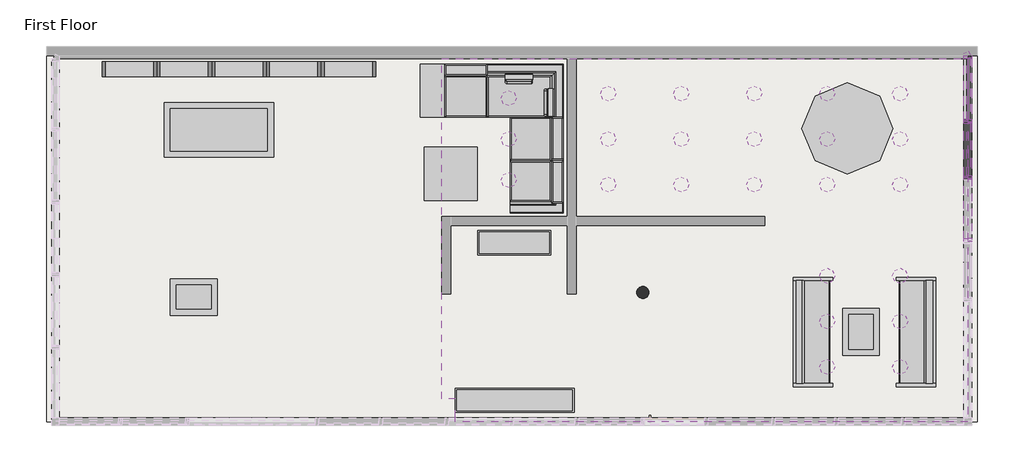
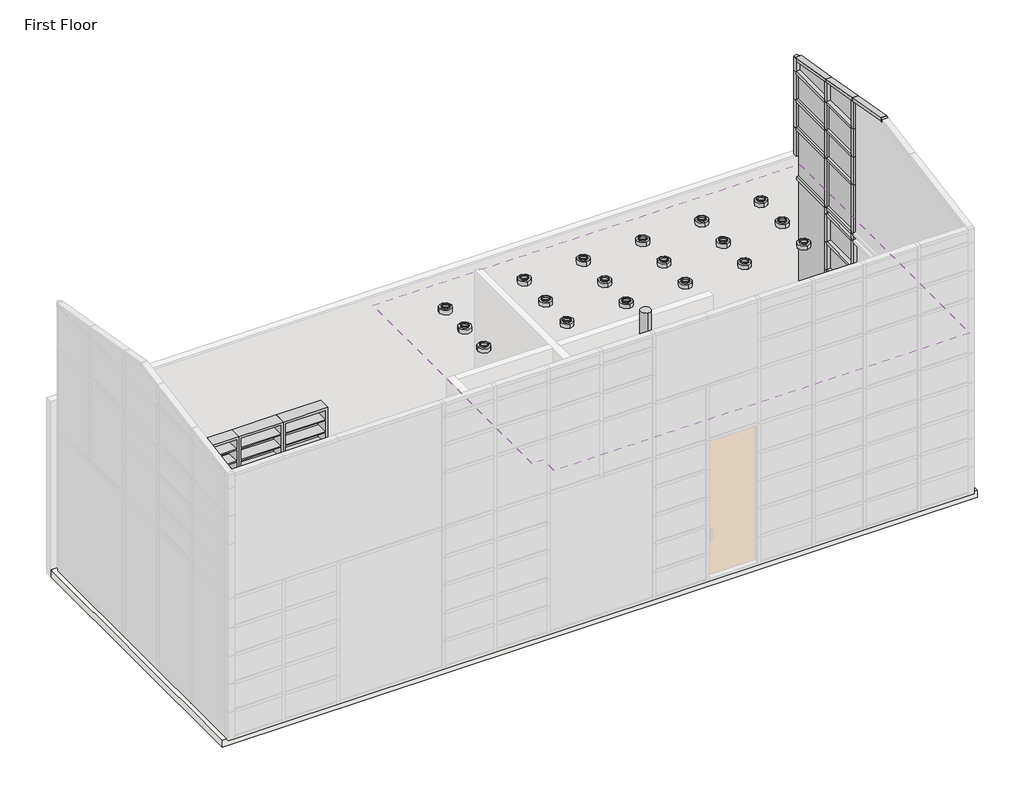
# One storey, part 5 of 5: 51 members, 24 light fixtures, 15 plates, 14 furniture elements, 1 column, 1 covering, 1 slab.
"""IFC4 building model written with IfcOpenShell, lengths in millimetres."""

from ifc_helpers import new_model, si_unit, point, frame, frame_2d, origin, origin_with_axes, place, context, project, spatial, polyline, circle_curve, trimmed, segment, composite_curve, outline, extrude, transform, mapped, element, save
from components import console_table_cdf4f12f, console_table_1e0c4b9e, shelving_bookcase_dark_finish_417d203a, furniture_a4ffab56, furniture_5f90431c, furniture_cd93a443, furniture_bbcc68ce, sectional_sofa_6482_sectional_sofa_6482_260eafee, sectional_sofa_6482_sectional_sofa_6482_b44f1e42, ceiling_light_flat_round_100w_120v_0a96185f, member_c4478095, member_319d761a, member_95fb7d25, member_e083785e, rectangular_mullion_rectangular_mullion_1_6e77e263, rectangular_mullion_rectangular_mullion_1_387e4cd3, rectangular_mullion_rectangular_mullion_1_67903e99, rectangular_mullion_rectangular_mullion_1_2650d14b, rectangular_mullion_rectangular_mullion_1_e82f553c, rectangular_mullion_rectangular_mullion_1_3d9b8911, rectangular_mullion_rectangular_mullion_1_266e9da3, rectangular_mullion_rectangular_mullion_1_ba4685a1, rectangular_mullion_rectangular_mullion_1_8b184945, rectangular_mullion_rectangular_mullion_1_1208470f, rectangular_mullion_rectangular_mullion_1_ac3be7ce, rectangular_mullion_rectangular_mullion_1_4a96a3d2, rectangular_mullion_rectangular_mullion_1_6a99a7d8, rectangular_mullion_rectangular_mullion_1_47e5d6da, rectangular_mullion_rectangular_mullion_1_9e40f087, system_panel_glazed_19ddb9a8, system_panel_glazed_8ef25f1c, system_panel_glazed_1be0de3c, system_panel_glazed_8d9964ea, system_panel_solid_grey_943a4061, system_panel_solid_grey_8fb18e3d, system_panel_solid_white_b9359cd8, system_panel_solid_white_162dd118, system_panel_solid_white_42016752, system_panel_wood_dark_18ae1fc2

model = new_model("IFC4")

# Units and contexts
model_context = context("Model", 3, world=origin())
ifc_project = project(units=[si_unit("LENGTHUNIT", "METRE", prefix="MILLI")], contexts=[model_context])

# Site, building, storey
site = spatial("IfcSite", under=ifc_project)
building = spatial("IfcBuilding", under=site)
storey = spatial("IfcBuildingStorey", under=building, Name="First Floor", Elevation=0.0)

# Column
placement = place(None, origin())
element("IfcColumn", 1, ObjectType="Round Column : 08\" Diameter", at=placement, inside=storey, context=model_context, shape_type="SweptSolid", body=[
    extrude(outline(composite_curve([segment(trimmed(circle_curve(frame_2d((-866.2217693, 8233.9400612)), 101.6), [point((-866.2217693, 8132.3400612))], [point((-866.2217693, 8335.5400612))], False, "CARTESIAN"), True, "CONTINUOUS"), segment(trimmed(circle_curve(frame_2d((-866.2217693, 8233.9400612)), 101.6), [point((-866.2217693, 8335.5400612))], [point((-764.6217693, 8233.9400612))], False, "CARTESIAN"), True, "CONTINUOUS"), segment(trimmed(circle_curve(frame_2d((-866.2217693, 8233.9400612)), 101.6), [point((-764.6217693, 8233.9400612))], [point((-866.2217693, 8132.3400612))], False, "CARTESIAN"), True, "CONTINUOUS")], self_intersect=False)), origin_with_axes(), (0.0, 0.0, 1.0), 4572.0),
])

# Covering
element("IfcCovering", 2, ObjectType="Ceiling 1", at=placement, inside=storey, context=model_context, shape_type="SweptSolid", body=[
    extrude(outline(polyline([(-4226.2789122, 6455.9400612), (-4226.2789122, 12145.5400612), (4563.0282307, 12145.5400612), (4563.0282307, 6074.9400612), (-3997.6789122, 6074.9400612), (-3997.6789122, 6455.9400612), (-4226.2789122, 6455.9400612)]), holes=[composite_curve([segment(trimmed(circle_curve(frame_2d((-861.1009964, 8233.9400612)), 1117.6), [point((-1978.7009964, 8233.9400612))], [point((256.4990036, 8233.9400612))], True, "CARTESIAN"), True, "CONTINUOUS"), segment(trimmed(circle_curve(frame_2d((-861.1009964, 8233.9400612)), 1117.6), [point((256.4990036, 8233.9400612))], [point((-1978.7009964, 8233.9400612))], True, "CARTESIAN"), True, "CONTINUOUS")], self_intersect=False)]), frame((0.0, 0.0, 3479.8), z_axis=(0.0, 0.0, 1.0), x_axis=(1.0, 0.0, 0.0)), (0.0, 0.0, 1.0), 25.4),
])

# Furniture
console_table_shape = console_table_cdf4f12f(model_context)
element("IfcFurniture", 3, ObjectType="Console Table : 78\" L x 16\" W x 32\" H", at=placement, inside=storey, context=model_context, shape_type="MappedRepresentation", body=[
    mapped(console_table_shape, transform((-3007.0789122, 6430.5400612, 0.0), x_axis=(-1.0, 0.0, 0.0), y_axis=(0.0, -1.0, 0.0), z_axis=(0.0, 0.0, 1.0))),
])
console_table_2_shape = console_table_1e0c4b9e(model_context)
element("IfcFurniture", 4, ObjectType="Console Table : 48\" L x 16\" W x 32\" H", at=placement, inside=storey, context=model_context, shape_type="MappedRepresentation", body=[
    mapped(console_table_2_shape, transform((-3014.3401664, 9066.5683939, 0.0), x_axis=(1.0, 0.0, 0.0), y_axis=(0.0, 1.0, 0.0), z_axis=(0.0, 0.0, 1.0))),
])
shelving_bookcase_dark_finish_shape = shelving_bookcase_dark_finish_417d203a(model_context)
element("IfcFurniture", 5, ObjectType="Shelving : Bookcase - Dark Finish", at=placement, inside=storey, context=model_context, shape_type="MappedRepresentation", body=[
    mapped(shelving_bookcase_dark_finish_shape, transform((-5787.0717211, 12272.5400612, 0.0), x_axis=(1.0, 0.0, 0.0), y_axis=(0.0, 1.0, 0.0), z_axis=(0.0, 0.0, 1.0))),
])
element("IfcFurniture", 6, ObjectType="Shelving : Bookcase - Dark Finish", at=placement, inside=storey, context=model_context, shape_type="MappedRepresentation", body=[
    mapped(shelving_bookcase_dark_finish_shape, transform((-6701.4717211, 12272.5400612, 0.0), x_axis=(1.0, 0.0, 0.0), y_axis=(0.0, 1.0, 0.0), z_axis=(0.0, 0.0, 1.0))),
])
element("IfcFurniture", 7, ObjectType="Shelving : Bookcase - Dark Finish", at=placement, inside=storey, context=model_context, shape_type="MappedRepresentation", body=[
    mapped(shelving_bookcase_dark_finish_shape, transform((-7615.8717211, 12272.5400612, 0.0), x_axis=(1.0, 0.0, 0.0), y_axis=(0.0, 1.0, 0.0), z_axis=(0.0, 0.0, 1.0))),
])
element("IfcFurniture", 8, ObjectType="Shelving : Bookcase - Dark Finish", at=placement, inside=storey, context=model_context, shape_type="MappedRepresentation", body=[
    mapped(shelving_bookcase_dark_finish_shape, transform((-8530.2717211, 12272.5400612, 0.0), x_axis=(1.0, 0.0, 0.0), y_axis=(0.0, 1.0, 0.0), z_axis=(0.0, 0.0, 1.0))),
])
element("IfcFurniture", 9, ObjectType="Shelving : Bookcase - Dark Finish", at=placement, inside=storey, context=model_context, shape_type="MappedRepresentation", body=[
    mapped(shelving_bookcase_dark_finish_shape, transform((-9444.6717211, 12272.5400612, 0.0), x_axis=(1.0, 0.0, 0.0), y_axis=(0.0, 1.0, 0.0), z_axis=(0.0, 0.0, 1.0))),
])
furniture_shape = furniture_a4ffab56(model_context)
element("IfcFurniture", 10, ObjectType="Sofa : 72\"", at=placement, inside=storey, context=model_context, shape_type="MappedRepresentation", body=[
    mapped(furniture_shape, transform((3548.1352979, 7645.0259618, 0.0), x_axis=(0.0, -1.0, 0.0), y_axis=(1.0, 0.0, 0.0), z_axis=(0.0, 0.0, 1.0))),
])
element("IfcFurniture", 11, ObjectType="Sofa : 72\"", at=placement, inside=storey, context=model_context, shape_type="MappedRepresentation", body=[
    mapped(furniture_shape, transform((2124.9034302, 7504.2849782, 0.0), x_axis=(0.0, 1.0, 0.0), y_axis=(-1.0, 0.0, 0.0), z_axis=(0.0, 0.0, 1.0))),
])
furniture_2_shape = furniture_5f90431c(model_context)
element("IfcFurniture", 12, ObjectType="Table-Coffee : 31\" x 28\" x 24\"", at=placement, inside=storey, context=model_context, shape_type="MappedRepresentation", body=[
    mapped(furniture_2_shape, transform((-8466.8288244, 8177.1212367, 0.0), x_axis=(0.0, -1.0, 0.0), y_axis=(1.0, 0.0, 0.0), z_axis=(0.0, 0.0, 1.0))),
])
element("IfcFurniture", 13, ObjectType="Table-Coffee : 31\" x 28\" x 24\"", at=placement, inside=storey, context=model_context, shape_type="MappedRepresentation", body=[
    mapped(furniture_2_shape, transform((2761.6236296, 7479.4443922, 0.0), x_axis=(1.0, 0.0, 0.0), y_axis=(0.0, 1.0, 0.0), z_axis=(0.0, 0.0, 1.0))),
])
furniture_3_shape = furniture_cd93a443(model_context)
element("IfcFurniture", 14, ObjectType="Table-Coffee : 36\" x 72\" x 18\"", at=placement, inside=storey, context=model_context, shape_type="MappedRepresentation", body=[
    mapped(furniture_3_shape, transform((-7969.4763222, 10857.6443922, 0.0), x_axis=(1.0, 0.0, 0.0), y_axis=(0.0, 1.0, 0.0), z_axis=(0.0, 0.0, 1.0))),
])
furniture_4_shape = furniture_bbcc68ce(model_context)
element("IfcFurniture", 15, ObjectType="Table-Dining Round w Chairs : 60\" Diameter", at=placement, inside=storey, context=model_context, shape_type="MappedRepresentation", body=[
    mapped(furniture_4_shape, transform((2736.1680848, 11081.9374372, 0.0), x_axis=(0.0, -1.0, 0.0), y_axis=(1.0, 0.0, 0.0), z_axis=(0.0, 0.0, 1.0))),
])
sectional_sofa_6482_sectional_sofa_6482_shape = sectional_sofa_6482_sectional_sofa_6482_260eafee(model_context)
sectional_sofa_6482_sectional_sofa_6482_2_shape = sectional_sofa_6482_sectional_sofa_6482_b44f1e42(model_context)
element("IfcFurniture", 16, ObjectType="sectional_sofa_6482 : sectional_sofa_6482", at=placement, inside=storey, context=model_context, shape_type="MappedRepresentation", body=[
    mapped(sectional_sofa_6482_sectional_sofa_6482_shape, transform((-3464.4118337, 10761.2400612, 0.0), x_axis=(1.0, 0.0, 0.0), y_axis=(0.0, 1.0, 0.0), z_axis=(0.0, 0.0, 1.0))),
    mapped(sectional_sofa_6482_sectional_sofa_6482_2_shape, transform((-3464.4118337, 10761.2400612, 0.0), x_axis=(1.0, 0.0, 0.0), y_axis=(0.0, 1.0, 0.0), z_axis=(0.0, 0.0, 1.0))),
])

# Light fixtures
ceiling_light_flat_round_100w_120v_shape = ceiling_light_flat_round_100w_120v_0a96185f(model_context)
element("IfcLightFixture", 17, ObjectType="Ceiling Light - Flat Round : 100W - 120V", at=placement, inside=storey, context=model_context, shape_type="MappedRepresentation", body=[
    mapped(ceiling_light_flat_round_100w_120v_shape, transform((-1445.1118337, 11561.3400612, 1041.4), x_axis=(0.0, -1.0, 0.0), y_axis=(1.0, 0.0, 0.0), z_axis=(0.0, 0.0, 1.0))),
])
element("IfcLightFixture", 18, ObjectType="Ceiling Light - Flat Round : 100W - 120V", at=placement, inside=storey, context=model_context, shape_type="MappedRepresentation", body=[
    mapped(ceiling_light_flat_round_100w_120v_shape, transform((-1445.1118337, 10799.3400612, 1041.4), x_axis=(0.0, -1.0, 0.0), y_axis=(1.0, 0.0, 0.0), z_axis=(0.0, 0.0, 1.0))),
])
element("IfcLightFixture", 19, ObjectType="Ceiling Light - Flat Round : 100W - 120V", at=placement, inside=storey, context=model_context, shape_type="MappedRepresentation", body=[
    mapped(ceiling_light_flat_round_100w_120v_shape, transform((-1445.1118337, 10037.3400612, 1041.4), x_axis=(0.0, -1.0, 0.0), y_axis=(1.0, 0.0, 0.0), z_axis=(0.0, 0.0, 1.0))),
])
element("IfcLightFixture", 20, ObjectType="Ceiling Light - Flat Round : 100W - 120V", at=placement, inside=storey, context=model_context, shape_type="MappedRepresentation", body=[
    mapped(ceiling_light_flat_round_100w_120v_shape, transform((-225.9118337, 11561.3400612, 1041.4), x_axis=(0.0, -1.0, 0.0), y_axis=(1.0, 0.0, 0.0), z_axis=(0.0, 0.0, 1.0))),
])
element("IfcLightFixture", 21, ObjectType="Ceiling Light - Flat Round : 100W - 120V", at=placement, inside=storey, context=model_context, shape_type="MappedRepresentation", body=[
    mapped(ceiling_light_flat_round_100w_120v_shape, transform((-225.9118337, 10799.3400612, 1041.4), x_axis=(0.0, -1.0, 0.0), y_axis=(1.0, 0.0, 0.0), z_axis=(0.0, 0.0, 1.0))),
])
element("IfcLightFixture", 22, ObjectType="Ceiling Light - Flat Round : 100W - 120V", at=placement, inside=storey, context=model_context, shape_type="MappedRepresentation", body=[
    mapped(ceiling_light_flat_round_100w_120v_shape, transform((-225.9118337, 10037.3400612, 1041.4), x_axis=(0.0, -1.0, 0.0), y_axis=(1.0, 0.0, 0.0), z_axis=(0.0, 0.0, 1.0))),
])
element("IfcLightFixture", 23, ObjectType="Ceiling Light - Flat Round : 100W - 120V", at=placement, inside=storey, context=model_context, shape_type="MappedRepresentation", body=[
    mapped(ceiling_light_flat_round_100w_120v_shape, transform((993.2881663, 11561.3400612, 1041.4), x_axis=(0.0, -1.0, 0.0), y_axis=(1.0, 0.0, 0.0), z_axis=(0.0, 0.0, 1.0))),
])
element("IfcLightFixture", 24, ObjectType="Ceiling Light - Flat Round : 100W - 120V", at=placement, inside=storey, context=model_context, shape_type="MappedRepresentation", body=[
    mapped(ceiling_light_flat_round_100w_120v_shape, transform((993.2881663, 10799.3400612, 1041.4), x_axis=(0.0, -1.0, 0.0), y_axis=(1.0, 0.0, 0.0), z_axis=(0.0, 0.0, 1.0))),
])
element("IfcLightFixture", 25, ObjectType="Ceiling Light - Flat Round : 100W - 120V", at=placement, inside=storey, context=model_context, shape_type="MappedRepresentation", body=[
    mapped(ceiling_light_flat_round_100w_120v_shape, transform((993.2881663, 10037.3400612, 1041.4), x_axis=(0.0, -1.0, 0.0), y_axis=(1.0, 0.0, 0.0), z_axis=(0.0, 0.0, 1.0))),
])
element("IfcLightFixture", 26, ObjectType="Ceiling Light - Flat Round : 100W - 120V", at=placement, inside=storey, context=model_context, shape_type="MappedRepresentation", body=[
    mapped(ceiling_light_flat_round_100w_120v_shape, transform((2212.4881663, 11561.3400612, 1041.4), x_axis=(0.0, -1.0, 0.0), y_axis=(1.0, 0.0, 0.0), z_axis=(0.0, 0.0, 1.0))),
])
element("IfcLightFixture", 27, ObjectType="Ceiling Light - Flat Round : 100W - 120V", at=placement, inside=storey, context=model_context, shape_type="MappedRepresentation", body=[
    mapped(ceiling_light_flat_round_100w_120v_shape, transform((2212.4881663, 10799.3400612, 1041.4), x_axis=(0.0, -1.0, 0.0), y_axis=(1.0, 0.0, 0.0), z_axis=(0.0, 0.0, 1.0))),
])
element("IfcLightFixture", 28, ObjectType="Ceiling Light - Flat Round : 100W - 120V", at=placement, inside=storey, context=model_context, shape_type="MappedRepresentation", body=[
    mapped(ceiling_light_flat_round_100w_120v_shape, transform((2212.4881663, 10037.3400612, 1041.4), x_axis=(0.0, -1.0, 0.0), y_axis=(1.0, 0.0, 0.0), z_axis=(0.0, 0.0, 1.0))),
])
element("IfcLightFixture", 29, ObjectType="Ceiling Light - Flat Round : 100W - 120V", at=placement, inside=storey, context=model_context, shape_type="MappedRepresentation", body=[
    mapped(ceiling_light_flat_round_100w_120v_shape, transform((3431.6881663, 11561.3400612, 1041.4), x_axis=(0.0, -1.0, 0.0), y_axis=(1.0, 0.0, 0.0), z_axis=(0.0, 0.0, 1.0))),
])
element("IfcLightFixture", 30, ObjectType="Ceiling Light - Flat Round : 100W - 120V", at=placement, inside=storey, context=model_context, shape_type="MappedRepresentation", body=[
    mapped(ceiling_light_flat_round_100w_120v_shape, transform((3431.6881663, 10799.3400612, 1041.4), x_axis=(0.0, -1.0, 0.0), y_axis=(1.0, 0.0, 0.0), z_axis=(0.0, 0.0, 1.0))),
])
element("IfcLightFixture", 31, ObjectType="Ceiling Light - Flat Round : 100W - 120V", at=placement, inside=storey, context=model_context, shape_type="MappedRepresentation", body=[
    mapped(ceiling_light_flat_round_100w_120v_shape, transform((3431.6881663, 10037.3400612, 1041.4), x_axis=(0.0, -1.0, 0.0), y_axis=(1.0, 0.0, 0.0), z_axis=(0.0, 0.0, 1.0))),
])
element("IfcLightFixture", 32, ObjectType="Ceiling Light - Flat Round : 100W - 120V", at=placement, inside=storey, context=model_context, shape_type="MappedRepresentation", body=[
    mapped(ceiling_light_flat_round_100w_120v_shape, transform((2212.4881663, 8513.3400612, 1041.4), x_axis=(0.0, -1.0, 0.0), y_axis=(1.0, 0.0, 0.0), z_axis=(0.0, 0.0, 1.0))),
])
element("IfcLightFixture", 33, ObjectType="Ceiling Light - Flat Round : 100W - 120V", at=placement, inside=storey, context=model_context, shape_type="MappedRepresentation", body=[
    mapped(ceiling_light_flat_round_100w_120v_shape, transform((2212.4881663, 7751.3400612, 1041.4), x_axis=(0.0, -1.0, 0.0), y_axis=(1.0, 0.0, 0.0), z_axis=(0.0, 0.0, 1.0))),
])
element("IfcLightFixture", 34, ObjectType="Ceiling Light - Flat Round : 100W - 120V", at=placement, inside=storey, context=model_context, shape_type="MappedRepresentation", body=[
    mapped(ceiling_light_flat_round_100w_120v_shape, transform((2212.4881663, 6989.3400612, 1041.4), x_axis=(0.0, -1.0, 0.0), y_axis=(1.0, 0.0, 0.0), z_axis=(0.0, 0.0, 1.0))),
])
element("IfcLightFixture", 35, ObjectType="Ceiling Light - Flat Round : 100W - 120V", at=placement, inside=storey, context=model_context, shape_type="MappedRepresentation", body=[
    mapped(ceiling_light_flat_round_100w_120v_shape, transform((3431.6881663, 8513.3400612, 1041.4), x_axis=(0.0, -1.0, 0.0), y_axis=(1.0, 0.0, 0.0), z_axis=(0.0, 0.0, 1.0))),
])
element("IfcLightFixture", 36, ObjectType="Ceiling Light - Flat Round : 100W - 120V", at=placement, inside=storey, context=model_context, shape_type="MappedRepresentation", body=[
    mapped(ceiling_light_flat_round_100w_120v_shape, transform((3431.6881663, 7751.3400612, 1041.4), x_axis=(0.0, -1.0, 0.0), y_axis=(1.0, 0.0, 0.0), z_axis=(0.0, 0.0, 1.0))),
])
element("IfcLightFixture", 37, ObjectType="Ceiling Light - Flat Round : 100W - 120V", at=placement, inside=storey, context=model_context, shape_type="MappedRepresentation", body=[
    mapped(ceiling_light_flat_round_100w_120v_shape, transform((3431.6881663, 6989.3400612, 1041.4), x_axis=(0.0, -1.0, 0.0), y_axis=(1.0, 0.0, 0.0), z_axis=(0.0, 0.0, 1.0))),
])
element("IfcLightFixture", 38, ObjectType="Ceiling Light - Flat Round : 60W - 120V", at=placement, inside=storey, context=model_context, shape_type="MappedRepresentation", body=[
    mapped(ceiling_light_flat_round_100w_120v_shape, transform((-3108.6789122, 10799.3400612, 1041.4), x_axis=(1.0, 0.0, 0.0), y_axis=(0.0, 1.0, 0.0), z_axis=(0.0, 0.0, 1.0))),
])
element("IfcLightFixture", 39, ObjectType="Ceiling Light - Flat Round : 60W - 120V", at=placement, inside=storey, context=model_context, shape_type="MappedRepresentation", body=[
    mapped(ceiling_light_flat_round_100w_120v_shape, transform((-3108.6789122, 11485.1400612, 1041.4), x_axis=(1.0, 0.0, 0.0), y_axis=(0.0, 1.0, 0.0), z_axis=(0.0, 0.0, 1.0))),
])
element("IfcLightFixture", 40, ObjectType="Ceiling Light - Flat Round : 60W - 120V", at=placement, inside=storey, context=model_context, shape_type="MappedRepresentation", body=[
    mapped(ceiling_light_flat_round_100w_120v_shape, transform((-3108.6789122, 10113.5400612, 1041.4), x_axis=(1.0, 0.0, 0.0), y_axis=(0.0, 1.0, 0.0), z_axis=(0.0, 0.0, 1.0))),
])

# Members
member_shape = member_c4478095(model_context)
element("IfcMember", 41, ObjectType="Quad Corner Mullion : 3\" x 1 1/2\" Quad Mullion", at=placement, inside=storey, context=model_context, shape_type="MappedRepresentation", body=[
    mapped(member_shape, transform((4563.0282307, 12196.3400612, 5486.4), x_axis=(0.0, 1.0, 0.0), y_axis=(-1.0, 0.0, 0.0), z_axis=(0.0, 0.0, 1.0))),
])
element("IfcMember", 42, ObjectType="Quad Corner Mullion : 3\" x 1 1/2\" Quad Mullion", at=placement, inside=storey, context=model_context, shape_type="MappedRepresentation", body=[
    mapped(member_shape, transform((4563.0282307, 12196.3400612, 4876.8), x_axis=(0.0, 1.0, 0.0), y_axis=(-1.0, 0.0, 0.0), z_axis=(0.0, 0.0, 1.0))),
])
element("IfcMember", 43, ObjectType="Quad Corner Mullion : 3\" x 1 1/2\" Quad Mullion", at=placement, inside=storey, context=model_context, shape_type="MappedRepresentation", body=[
    mapped(member_shape, transform((4563.0282307, 12196.3400612, 609.6), x_axis=(0.0, 1.0, 0.0), y_axis=(-1.0, 0.0, 0.0), z_axis=(0.0, 0.0, 1.0))),
])
element("IfcMember", 44, ObjectType="Quad Corner Mullion : 3\" x 1 1/2\" Quad Mullion", at=placement, inside=storey, context=model_context, shape_type="MappedRepresentation", body=[
    mapped(member_shape, transform((4563.0282307, 12196.3400612, 1828.8), x_axis=(0.0, 1.0, 0.0), y_axis=(-1.0, 0.0, 0.0), z_axis=(0.0, 0.0, 1.0))),
])
element("IfcMember", 45, ObjectType="Quad Corner Mullion : 3\" x 1 1/2\" Quad Mullion", at=placement, inside=storey, context=model_context, shape_type="MappedRepresentation", body=[
    mapped(member_shape, transform((4563.0282307, 12196.3400612, 3048.0), x_axis=(0.0, 1.0, 0.0), y_axis=(-1.0, 0.0, 0.0), z_axis=(0.0, 0.0, 1.0))),
])
element("IfcMember", 46, ObjectType="Quad Corner Mullion : 3\" x 1 1/2\" Quad Mullion", at=placement, inside=storey, context=model_context, shape_type="MappedRepresentation", body=[
    mapped(member_shape, transform((4563.0282307, 12196.3400612, 1219.2), x_axis=(0.0, 1.0, 0.0), y_axis=(-1.0, 0.0, 0.0), z_axis=(0.0, 0.0, 1.0))),
])
element("IfcMember", 47, ObjectType="Quad Corner Mullion : 3\" x 1 1/2\" Quad Mullion", at=placement, inside=storey, context=model_context, shape_type="MappedRepresentation", body=[
    mapped(member_shape, transform((4563.0282307, 12196.3400612, 2438.4), x_axis=(0.0, 1.0, 0.0), y_axis=(-1.0, 0.0, 0.0), z_axis=(0.0, 0.0, 1.0))),
])
member_2_shape = member_319d761a(model_context)
element("IfcMember", 48, ObjectType="Quad Corner Mullion : 3\" x 1 1/2\" Quad Mullion", at=placement, inside=storey, context=model_context, shape_type="MappedRepresentation", body=[
    mapped(member_2_shape, transform((4563.0282307, 12196.3400612, 4267.2), x_axis=(0.0, 1.0, 0.0), y_axis=(-1.0, 0.0, 0.0), z_axis=(0.0, 0.0, 1.0))),
])
member_3_shape = member_95fb7d25(model_context)
element("IfcMember", 49, ObjectType="Quad Corner Mullion : 3\" x 1 1/2\" Quad Mullion", at=placement, inside=storey, context=model_context, shape_type="MappedRepresentation", body=[
    mapped(member_3_shape, transform((4563.0282307, 12196.3400612, 5791.2), x_axis=(0.0, 1.0, 0.0), y_axis=(-1.0, 0.0, 0.0), z_axis=(0.0, 0.0, 1.0))),
])
member_4_shape = member_e083785e(model_context)
element("IfcMember", 50, ObjectType="Quad Corner Mullion : 3\" x 1 1/2\" Quad Mullion", at=placement, inside=storey, context=model_context, shape_type="MappedRepresentation", body=[
    mapped(member_4_shape, transform((4563.0282307, 12196.3400612, 3197.1919949), x_axis=(0.0, 1.0, 0.0), y_axis=(-1.0, 0.0, 0.0), z_axis=(0.0, 0.0, 1.0))),
])
rectangular_mullion_rectangular_mullion_1_shape = rectangular_mullion_rectangular_mullion_1_6e77e263(model_context)
element("IfcMember", 51, ObjectType="Rectangular Mullion : Rectangular Mullion 1", at=placement, inside=storey, context=model_context, shape_type="MappedRepresentation", body=[
    mapped(rectangular_mullion_rectangular_mullion_1_shape, transform((4563.0282307, 10152.8657674, 0.0), x_axis=(0.0, -1.0, 0.0), y_axis=(-1.0, 0.0, 0.0), z_axis=(0.0, 0.0, -1.0))),
])
element("IfcMember", 52, ObjectType="Rectangular Mullion : Rectangular Mullion 1", at=placement, inside=storey, context=model_context, shape_type="MappedRepresentation", body=[
    mapped(rectangular_mullion_rectangular_mullion_1_shape, transform((4563.0282307, 11096.7317278, 0.0), x_axis=(0.0, -1.0, 0.0), y_axis=(-1.0, 0.0, 0.0), z_axis=(0.0, 0.0, -1.0))),
])
element("IfcMember", 53, ObjectType="Rectangular Mullion : Rectangular Mullion 1", at=placement, inside=storey, context=model_context, shape_type="MappedRepresentation", body=[
    mapped(rectangular_mullion_rectangular_mullion_1_shape, transform((4563.0282307, 11096.7317278, 4876.8), x_axis=(0.0, -1.0, 0.0), y_axis=(-1.0, 0.0, 0.0), z_axis=(0.0, 0.0, -1.0))),
])
element("IfcMember", 54, ObjectType="Rectangular Mullion : Rectangular Mullion 1", at=placement, inside=storey, context=model_context, shape_type="MappedRepresentation", body=[
    mapped(rectangular_mullion_rectangular_mullion_1_shape, transform((4563.0282307, 10152.8657674, 4876.8), x_axis=(0.0, -1.0, 0.0), y_axis=(-1.0, 0.0, 0.0), z_axis=(0.0, 0.0, -1.0))),
])
element("IfcMember", 55, ObjectType="Rectangular Mullion : Rectangular Mullion 1", at=placement, inside=storey, context=model_context, shape_type="MappedRepresentation", body=[
    mapped(rectangular_mullion_rectangular_mullion_1_shape, transform((4563.0282307, 11096.7317278, 4267.2), x_axis=(0.0, -1.0, 0.0), y_axis=(-1.0, 0.0, 0.0), z_axis=(0.0, 0.0, -1.0))),
])
element("IfcMember", 56, ObjectType="Rectangular Mullion : Rectangular Mullion 1", at=placement, inside=storey, context=model_context, shape_type="MappedRepresentation", body=[
    mapped(rectangular_mullion_rectangular_mullion_1_shape, transform((4563.0282307, 10152.8657674, 4267.2), x_axis=(0.0, -1.0, 0.0), y_axis=(-1.0, 0.0, 0.0), z_axis=(0.0, 0.0, -1.0))),
])
element("IfcMember", 57, ObjectType="Rectangular Mullion : Rectangular Mullion 1", at=placement, inside=storey, context=model_context, shape_type="MappedRepresentation", body=[
    mapped(rectangular_mullion_rectangular_mullion_1_shape, transform((4563.0282307, 11096.7317278, 2438.4), x_axis=(0.0, -1.0, 0.0), y_axis=(-1.0, 0.0, 0.0), z_axis=(0.0, 0.0, -1.0))),
])
element("IfcMember", 58, ObjectType="Rectangular Mullion : Rectangular Mullion 1", at=placement, inside=storey, context=model_context, shape_type="MappedRepresentation", body=[
    mapped(rectangular_mullion_rectangular_mullion_1_shape, transform((4563.0282307, 10152.8657674, 2438.4), x_axis=(0.0, -1.0, 0.0), y_axis=(-1.0, 0.0, 0.0), z_axis=(0.0, 0.0, -1.0))),
])
element("IfcMember", 59, ObjectType="Rectangular Mullion : Rectangular Mullion 1", at=placement, inside=storey, context=model_context, shape_type="MappedRepresentation", body=[
    mapped(rectangular_mullion_rectangular_mullion_1_shape, transform((4563.0282307, 11096.7317278, 1219.2), x_axis=(0.0, -1.0, 0.0), y_axis=(-1.0, 0.0, 0.0), z_axis=(0.0, 0.0, -1.0))),
])
element("IfcMember", 60, ObjectType="Rectangular Mullion : Rectangular Mullion 1", at=placement, inside=storey, context=model_context, shape_type="MappedRepresentation", body=[
    mapped(rectangular_mullion_rectangular_mullion_1_shape, transform((4563.0282307, 10152.8657674, 1219.2), x_axis=(0.0, -1.0, 0.0), y_axis=(-1.0, 0.0, 0.0), z_axis=(0.0, 0.0, -1.0))),
])
element("IfcMember", 61, ObjectType="Rectangular Mullion : Rectangular Mullion 1", at=placement, inside=storey, context=model_context, shape_type="MappedRepresentation", body=[
    mapped(rectangular_mullion_rectangular_mullion_1_shape, transform((4563.0282307, 11096.7317278, 1828.8), x_axis=(0.0, -1.0, 0.0), y_axis=(-1.0, 0.0, 0.0), z_axis=(0.0, 0.0, -1.0))),
])
element("IfcMember", 62, ObjectType="Rectangular Mullion : Rectangular Mullion 1", at=placement, inside=storey, context=model_context, shape_type="MappedRepresentation", body=[
    mapped(rectangular_mullion_rectangular_mullion_1_shape, transform((4563.0282307, 10152.8657674, 1828.8), x_axis=(0.0, -1.0, 0.0), y_axis=(-1.0, 0.0, 0.0), z_axis=(0.0, 0.0, -1.0))),
])
element("IfcMember", 63, ObjectType="Rectangular Mullion : Rectangular Mullion 1", at=placement, inside=storey, context=model_context, shape_type="MappedRepresentation", body=[
    mapped(rectangular_mullion_rectangular_mullion_1_shape, transform((4563.0282307, 11096.7317278, 609.6), x_axis=(0.0, -1.0, 0.0), y_axis=(-1.0, 0.0, 0.0), z_axis=(0.0, 0.0, -1.0))),
])
element("IfcMember", 64, ObjectType="Rectangular Mullion : Rectangular Mullion 1", at=placement, inside=storey, context=model_context, shape_type="MappedRepresentation", body=[
    mapped(rectangular_mullion_rectangular_mullion_1_shape, transform((4563.0282307, 10152.8657674, 609.6), x_axis=(0.0, -1.0, 0.0), y_axis=(-1.0, 0.0, 0.0), z_axis=(0.0, 0.0, -1.0))),
])
rectangular_mullion_rectangular_mullion_1_2_shape = rectangular_mullion_rectangular_mullion_1_387e4cd3(model_context)
element("IfcMember", 65, ObjectType="Rectangular Mullion : Rectangular Mullion 1", at=placement, inside=storey, context=model_context, shape_type="MappedRepresentation", body=[
    mapped(rectangular_mullion_rectangular_mullion_1_2_shape, transform((4563.0282307, 10152.8657674, 3197.1919949), x_axis=(0.0, -1.0, 0.0), y_axis=(-1.0, 0.0, 0.0), z_axis=(0.0, 0.0, -1.0))),
])
element("IfcMember", 66, ObjectType="Rectangular Mullion : Rectangular Mullion 1", at=placement, inside=storey, context=model_context, shape_type="MappedRepresentation", body=[
    mapped(rectangular_mullion_rectangular_mullion_1_2_shape, transform((4563.0282307, 11096.7317278, 3197.1919949), x_axis=(0.0, -1.0, 0.0), y_axis=(-1.0, 0.0, 0.0), z_axis=(0.0, 0.0, -1.0))),
])
rectangular_mullion_rectangular_mullion_1_3_shape = rectangular_mullion_rectangular_mullion_1_67903e99(model_context)
element("IfcMember", 67, ObjectType="Rectangular Mullion : Rectangular Mullion 1", at=placement, inside=storey, context=model_context, shape_type="MappedRepresentation", body=[
    mapped(rectangular_mullion_rectangular_mullion_1_3_shape, transform((4563.0282307, 10152.8657674, 3048.0), x_axis=(0.0, -1.0, 0.0), y_axis=(-1.0, 0.0, 0.0), z_axis=(0.0, 0.0, -1.0))),
])
element("IfcMember", 68, ObjectType="Rectangular Mullion : Rectangular Mullion 1", at=placement, inside=storey, context=model_context, shape_type="MappedRepresentation", body=[
    mapped(rectangular_mullion_rectangular_mullion_1_3_shape, transform((4563.0282307, 11096.7317278, 3048.0), x_axis=(0.0, -1.0, 0.0), y_axis=(-1.0, 0.0, 0.0), z_axis=(0.0, 0.0, -1.0))),
])
rectangular_mullion_rectangular_mullion_1_4_shape = rectangular_mullion_rectangular_mullion_1_2650d14b(model_context)
element("IfcMember", 69, ObjectType="Rectangular Mullion : Rectangular Mullion 1", at=placement, inside=storey, context=model_context, shape_type="MappedRepresentation", body=[
    mapped(rectangular_mullion_rectangular_mullion_1_4_shape, transform((4563.0282307, 10184.6157674, 3197.1919949), x_axis=(0.0, 0.0, 1.0), y_axis=(-1.0, 0.0, 0.0), z_axis=(0.0, -1.0, 0.0))),
])
element("IfcMember", 70, ObjectType="Rectangular Mullion : Rectangular Mullion 1", at=placement, inside=storey, context=model_context, shape_type="MappedRepresentation", body=[
    mapped(rectangular_mullion_rectangular_mullion_1_4_shape, transform((4563.0282307, 10184.6157674, 4876.8), x_axis=(0.0, 0.0, 1.0), y_axis=(-1.0, 0.0, 0.0), z_axis=(0.0, -1.0, 0.0))),
])
element("IfcMember", 71, ObjectType="Rectangular Mullion : Rectangular Mullion 1", at=placement, inside=storey, context=model_context, shape_type="MappedRepresentation", body=[
    mapped(rectangular_mullion_rectangular_mullion_1_4_shape, transform((4563.0282307, 10184.6157674, 5486.4), x_axis=(0.0, 0.0, 1.0), y_axis=(-1.0, 0.0, 0.0), z_axis=(0.0, -1.0, 0.0))),
])
element("IfcMember", 72, ObjectType="Rectangular Mullion : Rectangular Mullion 1", at=placement, inside=storey, context=model_context, shape_type="MappedRepresentation", body=[
    mapped(rectangular_mullion_rectangular_mullion_1_4_shape, transform((4563.0282307, 10184.6157674, 4267.2), x_axis=(0.0, 0.0, 1.0), y_axis=(-1.0, 0.0, 0.0), z_axis=(0.0, -1.0, 0.0))),
])
element("IfcMember", 73, ObjectType="Rectangular Mullion : Rectangular Mullion 1", at=placement, inside=storey, context=model_context, shape_type="MappedRepresentation", body=[
    mapped(rectangular_mullion_rectangular_mullion_1_4_shape, transform((4563.0282307, 10184.6157674, 2438.4), x_axis=(0.0, 0.0, 1.0), y_axis=(-1.0, 0.0, 0.0), z_axis=(0.0, -1.0, 0.0))),
])
element("IfcMember", 74, ObjectType="Rectangular Mullion : Rectangular Mullion 1", at=placement, inside=storey, context=model_context, shape_type="MappedRepresentation", body=[
    mapped(rectangular_mullion_rectangular_mullion_1_4_shape, transform((4563.0282307, 10184.6157674, 1219.2), x_axis=(0.0, 0.0, 1.0), y_axis=(-1.0, 0.0, 0.0), z_axis=(0.0, -1.0, 0.0))),
])
element("IfcMember", 75, ObjectType="Rectangular Mullion : Rectangular Mullion 1", at=placement, inside=storey, context=model_context, shape_type="MappedRepresentation", body=[
    mapped(rectangular_mullion_rectangular_mullion_1_4_shape, transform((4563.0282307, 10184.6157674, 3048.0), x_axis=(0.0, 0.0, 1.0), y_axis=(-1.0, 0.0, 0.0), z_axis=(0.0, -1.0, 0.0))),
])
element("IfcMember", 76, ObjectType="Rectangular Mullion : Rectangular Mullion 1", at=placement, inside=storey, context=model_context, shape_type="MappedRepresentation", body=[
    mapped(rectangular_mullion_rectangular_mullion_1_4_shape, transform((4563.0282307, 10184.6157674, 1828.8), x_axis=(0.0, 0.0, 1.0), y_axis=(-1.0, 0.0, 0.0), z_axis=(0.0, -1.0, 0.0))),
])
element("IfcMember", 77, ObjectType="Rectangular Mullion : Rectangular Mullion 1", at=placement, inside=storey, context=model_context, shape_type="MappedRepresentation", body=[
    mapped(rectangular_mullion_rectangular_mullion_1_4_shape, transform((4563.0282307, 10184.6157674, 609.6), x_axis=(0.0, 0.0, 1.0), y_axis=(-1.0, 0.0, 0.0), z_axis=(0.0, -1.0, 0.0))),
])
rectangular_mullion_rectangular_mullion_1_5_shape = rectangular_mullion_rectangular_mullion_1_e82f553c(model_context)
element("IfcMember", 78, ObjectType="Rectangular Mullion : Rectangular Mullion 1", at=placement, inside=storey, context=model_context, shape_type="MappedRepresentation", body=[
    mapped(rectangular_mullion_rectangular_mullion_1_5_shape, transform((4563.0282307, 10152.8657674, 5486.4), x_axis=(0.0, -1.0, 0.0), y_axis=(-1.0, 0.0, 0.0), z_axis=(0.0, 0.0, -1.0))),
])
rectangular_mullion_rectangular_mullion_1_6_shape = rectangular_mullion_rectangular_mullion_1_3d9b8911(model_context)
element("IfcMember", 79, ObjectType="Rectangular Mullion : Rectangular Mullion 1", at=placement, inside=storey, context=model_context, shape_type="MappedRepresentation", body=[
    mapped(rectangular_mullion_rectangular_mullion_1_6_shape, transform((4563.0282307, 10121.1157674, 0.0), x_axis=(0.0, 0.0, -1.0), y_axis=(-1.0, 0.0, 0.0), z_axis=(0.0, 1.0, 0.0))),
])
rectangular_mullion_rectangular_mullion_1_7_shape = rectangular_mullion_rectangular_mullion_1_266e9da3(model_context)
element("IfcMember", 80, ObjectType="Rectangular Mullion : Rectangular Mullion 1", at=placement, inside=storey, context=model_context, shape_type="MappedRepresentation", body=[
    mapped(rectangular_mullion_rectangular_mullion_1_7_shape, transform((4563.0282307, 11064.9817278, 0.0), x_axis=(0.0, 0.0, -1.0), y_axis=(-1.0, 0.0, 0.0), z_axis=(0.0, 1.0, 0.0))),
])
rectangular_mullion_rectangular_mullion_1_8_shape = rectangular_mullion_rectangular_mullion_1_ba4685a1(model_context)
element("IfcMember", 81, ObjectType="Rectangular Mullion : Rectangular Mullion 1", at=placement, inside=storey, context=model_context, shape_type="MappedRepresentation", body=[
    mapped(rectangular_mullion_rectangular_mullion_1_8_shape, transform((4563.0282307, 9053.0900612, 0.0), x_axis=(0.0, 0.0, -1.0), y_axis=(-1.0, 0.0, 0.0), z_axis=(0.0, 1.0, 0.0))),
])
rectangular_mullion_rectangular_mullion_1_9_shape = rectangular_mullion_rectangular_mullion_1_8b184945(model_context)
element("IfcMember", 82, ObjectType="Rectangular Mullion : Rectangular Mullion 1", at=placement, inside=storey, context=model_context, shape_type="MappedRepresentation", body=[
    mapped(rectangular_mullion_rectangular_mullion_1_9_shape, transform((4563.0282307, 10152.8657674, 6151.5196524), x_axis=(0.0, 0.1736481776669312, 0.9848077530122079), y_axis=(-1.0, 0.0, 0.0), z_axis=(0.0, -0.9848077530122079, 0.1736481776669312))),
])
rectangular_mullion_rectangular_mullion_1_10_shape = rectangular_mullion_rectangular_mullion_1_1208470f(model_context)
element("IfcMember", 83, ObjectType="Rectangular Mullion : Rectangular Mullion 1", at=placement, inside=storey, context=model_context, shape_type="MappedRepresentation", body=[
    mapped(rectangular_mullion_rectangular_mullion_1_10_shape, transform((4563.0282307, 11096.7317278, 5486.4), x_axis=(0.0, -1.0, 0.0), y_axis=(-1.0, 0.0, 0.0), z_axis=(0.0, 0.0, -1.0))),
])
rectangular_mullion_rectangular_mullion_1_11_shape = rectangular_mullion_rectangular_mullion_1_ac3be7ce(model_context)
element("IfcMember", 84, ObjectType="Rectangular Mullion : Rectangular Mullion 1", at=placement, inside=storey, context=model_context, shape_type="MappedRepresentation", body=[
    mapped(rectangular_mullion_rectangular_mullion_1_11_shape, transform((4563.0282307, 9135.6400612, 6330.8839899), x_axis=(0.0, 0.1736481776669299, 0.9848077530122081), y_axis=(-1.0, 0.0, 0.0), z_axis=(0.0, -0.9848077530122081, 0.1736481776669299))),
])
rectangular_mullion_rectangular_mullion_1_12_shape = rectangular_mullion_rectangular_mullion_1_4a96a3d2(model_context)
element("IfcMember", 85, ObjectType="Rectangular Mullion : Rectangular Mullion 1", at=placement, inside=storey, context=model_context, shape_type="MappedRepresentation", body=[
    mapped(rectangular_mullion_rectangular_mullion_1_12_shape, transform((4563.0282307, 9084.8400612, 6321.9265792), x_axis=(0.0, -0.1736481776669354, 0.9848077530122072), y_axis=(-1.0, 0.0, 0.0), z_axis=(0.0, -0.9848077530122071, -0.17364817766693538))),
])
rectangular_mullion_rectangular_mullion_1_13_shape = rectangular_mullion_rectangular_mullion_1_6a99a7d8(model_context)
element("IfcMember", 86, ObjectType="Rectangular Mullion : Rectangular Mullion 1", at=placement, inside=storey, context=model_context, shape_type="MappedRepresentation", body=[
    mapped(rectangular_mullion_rectangular_mullion_1_13_shape, transform((4563.0282307, 11096.7317278, 5985.0906174), x_axis=(0.0, 0.17364817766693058, 0.984807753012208), y_axis=(-1.0, 0.0, 0.0), z_axis=(0.0, -0.984807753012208, 0.17364817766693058))),
])
rectangular_mullion_rectangular_mullion_1_14_shape = rectangular_mullion_rectangular_mullion_1_47e5d6da(model_context)
element("IfcMember", 87, ObjectType="Rectangular Mullion : Rectangular Mullion 1", at=placement, inside=storey, context=model_context, shape_type="MappedRepresentation", body=[
    mapped(rectangular_mullion_rectangular_mullion_1_14_shape, transform((4563.0282307, 11128.4817278, 3197.1919949), x_axis=(0.0, 0.0, 1.0), y_axis=(-1.0, 0.0, 0.0), z_axis=(0.0, -1.0, 0.0))),
])
element("IfcMember", 88, ObjectType="Rectangular Mullion : Rectangular Mullion 1", at=placement, inside=storey, context=model_context, shape_type="MappedRepresentation", body=[
    mapped(rectangular_mullion_rectangular_mullion_1_14_shape, transform((4563.0282307, 11128.4817278, 4876.8), x_axis=(0.0, 0.0, 1.0), y_axis=(-1.0, 0.0, 0.0), z_axis=(0.0, -1.0, 0.0))),
])
element("IfcMember", 89, ObjectType="Rectangular Mullion : Rectangular Mullion 1", at=placement, inside=storey, context=model_context, shape_type="MappedRepresentation", body=[
    mapped(rectangular_mullion_rectangular_mullion_1_14_shape, transform((4563.0282307, 11128.4817278, 5486.4), x_axis=(0.0, 0.0, 1.0), y_axis=(-1.0, 0.0, 0.0), z_axis=(0.0, -1.0, 0.0))),
])
element("IfcMember", 90, ObjectType="Rectangular Mullion : Rectangular Mullion 1", at=placement, inside=storey, context=model_context, shape_type="MappedRepresentation", body=[
    mapped(rectangular_mullion_rectangular_mullion_1_14_shape, transform((4563.0282307, 11128.4817278, 4267.2), x_axis=(0.0, 0.0, 1.0), y_axis=(-1.0, 0.0, 0.0), z_axis=(0.0, -1.0, 0.0))),
])
rectangular_mullion_rectangular_mullion_1_15_shape = rectangular_mullion_rectangular_mullion_1_9e40f087(model_context)
element("IfcMember", 91, ObjectType="Rectangular Mullion : Rectangular Mullion 1", at=placement, inside=storey, context=model_context, shape_type="MappedRepresentation", body=[
    mapped(rectangular_mullion_rectangular_mullion_1_15_shape, transform((4563.0282307, 12155.5671801, 0.0), x_axis=(0.0, 0.0, -1.0), y_axis=(-1.0, 0.0, 0.0), z_axis=(0.0, 1.0, 0.0))),
])

# Plates
system_panel_glazed_shape = system_panel_glazed_19ddb9a8(model_context)
element("IfcPlate", 92, ObjectType="System Panel : Glazed", at=placement, inside=storey, context=model_context, shape_type="MappedRepresentation", body=[
    mapped(system_panel_glazed_shape, transform((4563.0282307, 10624.7987476, 5518.15), x_axis=(0.0, -1.0, 0.0), y_axis=(1.0, 0.0, 0.0), z_axis=(0.0, 0.0, 1.0))),
])
system_panel_glazed_2_shape = system_panel_glazed_8ef25f1c(model_context)
element("IfcPlate", 93, ObjectType="System Panel : Glazed", at=placement, inside=storey, context=model_context, shape_type="MappedRepresentation", body=[
    mapped(system_panel_glazed_2_shape, transform((4563.0282307, 10624.7987476, 2470.15), x_axis=(0.0, -1.0, 0.0), y_axis=(1.0, 0.0, 0.0), z_axis=(0.0, 0.0, 1.0))),
])
element("IfcPlate", 94, ObjectType="System Panel : Glazed", at=placement, inside=storey, context=model_context, shape_type="MappedRepresentation", body=[
    mapped(system_panel_glazed_2_shape, transform((4563.0282307, 10624.7987476, 1860.55), x_axis=(0.0, -1.0, 0.0), y_axis=(1.0, 0.0, 0.0), z_axis=(0.0, 0.0, 1.0))),
])
system_panel_glazed_3_shape = system_panel_glazed_1be0de3c(model_context)
element("IfcPlate", 95, ObjectType="System Panel : Glazed", at=placement, inside=storey, context=model_context, shape_type="MappedRepresentation", body=[
    mapped(system_panel_glazed_3_shape, transform((4563.0282307, 10624.7987476, 3079.75), x_axis=(0.0, -1.0, 0.0), y_axis=(1.0, 0.0, 0.0), z_axis=(0.0, 0.0, 1.0))),
])
system_panel_glazed_4_shape = system_panel_glazed_8d9964ea(model_context)
element("IfcPlate", 96, ObjectType="System Panel : Glazed", at=placement, inside=storey, context=model_context, shape_type="MappedRepresentation", body=[
    mapped(system_panel_glazed_4_shape, transform((4563.0282307, 11642.024454, 5518.15), x_axis=(0.0, -1.0, 0.0), y_axis=(1.0, 0.0, 0.0), z_axis=(0.0, 0.0, 1.0))),
])
system_panel_solid_grey_shape = system_panel_solid_grey_943a4061(model_context)
element("IfcPlate", 97, ObjectType="System Panel : Solid - Grey", at=placement, inside=storey, context=model_context, shape_type="MappedRepresentation", body=[
    mapped(system_panel_solid_grey_shape, transform((4563.0282307, 10624.7987476, 3228.9419949), x_axis=(0.0, -1.0, 0.0), y_axis=(1.0, 0.0, 0.0), z_axis=(0.0, 0.0, 1.0))),
])
system_panel_solid_grey_2_shape = system_panel_solid_grey_8fb18e3d(model_context)
element("IfcPlate", 98, ObjectType="System Panel : Solid - Grey", at=placement, inside=storey, context=model_context, shape_type="MappedRepresentation", body=[
    mapped(system_panel_solid_grey_2_shape, transform((4563.0282307, 10624.7987476, 4908.55), x_axis=(0.0, -1.0, 0.0), y_axis=(1.0, 0.0, 0.0), z_axis=(0.0, 0.0, 1.0))),
])
element("IfcPlate", 99, ObjectType="System Panel : Solid - Grey", at=placement, inside=storey, context=model_context, shape_type="MappedRepresentation", body=[
    mapped(system_panel_solid_grey_2_shape, transform((4563.0282307, 10624.7987476, 4298.95), x_axis=(0.0, -1.0, 0.0), y_axis=(1.0, 0.0, 0.0), z_axis=(0.0, 0.0, 1.0))),
])
system_panel_solid_white_shape = system_panel_solid_white_b9359cd8(model_context)
element("IfcPlate", 100, ObjectType="System Panel : Solid - White", at=placement, inside=storey, context=model_context, shape_type="MappedRepresentation", body=[
    mapped(system_panel_solid_white_shape, transform((4563.0282307, 10624.7987476, 63.5), x_axis=(0.0, -1.0, 0.0), y_axis=(1.0, 0.0, 0.0), z_axis=(0.0, 0.0, 1.0))),
])
element("IfcPlate", 101, ObjectType="System Panel : Solid - White", at=placement, inside=storey, context=model_context, shape_type="MappedRepresentation", body=[
    mapped(system_panel_solid_grey_2_shape, transform((4563.0282307, 10624.7987476, 1250.95), x_axis=(0.0, -1.0, 0.0), y_axis=(1.0, 0.0, 0.0), z_axis=(0.0, 0.0, 1.0))),
])
element("IfcPlate", 102, ObjectType="System Panel : Solid - White", at=placement, inside=storey, context=model_context, shape_type="MappedRepresentation", body=[
    mapped(system_panel_solid_grey_2_shape, transform((4563.0282307, 10624.7987476, 641.35), x_axis=(0.0, -1.0, 0.0), y_axis=(1.0, 0.0, 0.0), z_axis=(0.0, 0.0, 1.0))),
])
system_panel_solid_white_2_shape = system_panel_solid_white_162dd118(model_context)
element("IfcPlate", 103, ObjectType="System Panel : Solid - White", at=placement, inside=storey, context=model_context, shape_type="MappedRepresentation", body=[
    mapped(system_panel_solid_white_2_shape, transform((4563.0282307, 11642.024454, 3228.9419949), x_axis=(0.0, -1.0, 0.0), y_axis=(1.0, 0.0, 0.0), z_axis=(0.0, 0.0, 1.0))),
])
system_panel_solid_white_3_shape = system_panel_solid_white_42016752(model_context)
element("IfcPlate", 104, ObjectType="System Panel : Solid - White", at=placement, inside=storey, context=model_context, shape_type="MappedRepresentation", body=[
    mapped(system_panel_solid_white_3_shape, transform((4563.0282307, 11642.024454, 4908.55), x_axis=(0.0, -1.0, 0.0), y_axis=(1.0, 0.0, 0.0), z_axis=(0.0, 0.0, 1.0))),
])
element("IfcPlate", 105, ObjectType="System Panel : Solid - White", at=placement, inside=storey, context=model_context, shape_type="MappedRepresentation", body=[
    mapped(system_panel_solid_white_3_shape, transform((4563.0282307, 11642.024454, 4298.95), x_axis=(0.0, -1.0, 0.0), y_axis=(1.0, 0.0, 0.0), z_axis=(0.0, 0.0, 1.0))),
])
system_panel_wood_dark_shape = system_panel_wood_dark_18ae1fc2(model_context)
element("IfcPlate", 106, ObjectType="System Panel : Wood - Dark", at=placement, inside=storey, context=model_context, shape_type="MappedRepresentation", body=[
    mapped(system_panel_wood_dark_shape, transform((4563.0282307, 11642.024454, 63.5), x_axis=(0.0, -1.0, 0.0), y_axis=(1.0, 0.0, 0.0), z_axis=(0.0, 0.0, 1.0))),
])

# Slab
element("IfcSlab", 107, ObjectType="Concrete Slab - 6\"", at=placement, inside=storey, context=model_context, shape_type="SweptSolid", body=[
    extrude(outline(polyline([(4724.4914365, 6074.9400612), (-10829.3717693, 6074.9400612), (-10829.3717693, 12196.3400612), (4724.4914365, 12196.3400612), (4724.4914365, 6074.9400612)])), frame((0.0, 0.0, -152.4), z_axis=(0.0, 0.0, 1.0), x_axis=(1.0, 0.0, 0.0)), (0.0, 0.0, 1.0), 152.4),
])

save(model, "model.ifc")
